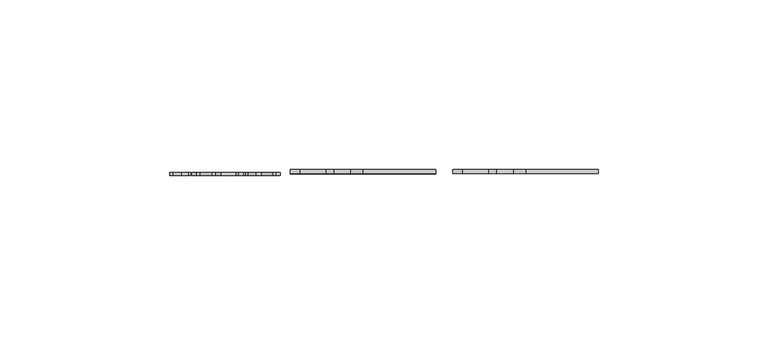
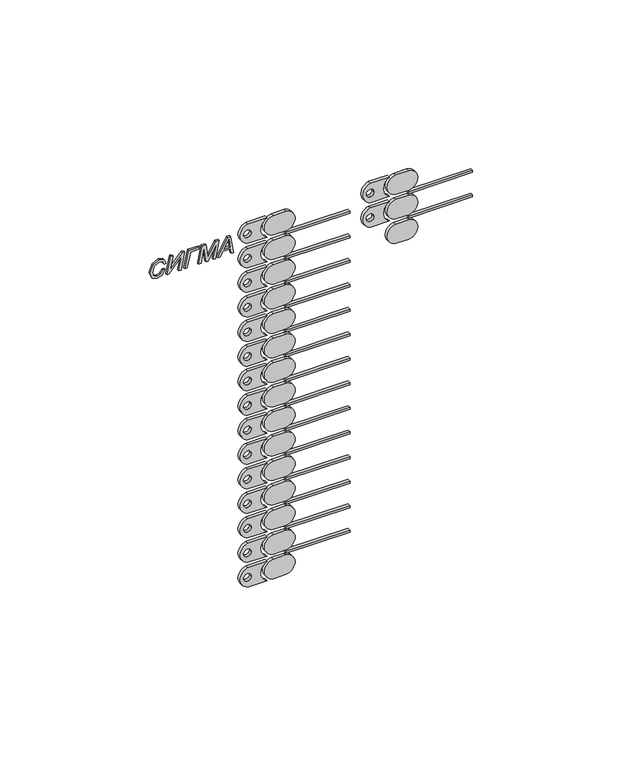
"""IFC4 building model written with IfcOpenShell, lengths in millimetres: alarm geometry, БИС-Р_тип модель : БИС-Р."""

from ifc_helpers import new_model, si_unit, point, frame, frame_2d, origin, place, context, project, spatial, polyline, circle_curve, trimmed, segment, composite_curve, outline, extrude, source, transform, mapped, element, save


def alarm_f305d9a8(model_context):
    return source(origin(), model_context, "Body", "SweptSolid", [
        extrude(outline(composite_curve([segment(trimmed(circle_curve(frame_2d((-33.3003936, -5.544314)), 4.0380565), [point((-37.3025772, -5.0072606))], [point((-29.2982099, -5.0072606))], False, "CARTESIAN"), True, "CONTINUOUS"), segment(polyline([(-29.2982099, -5.0072606), (-29.2982099, -10.0081551)]), True, "CONTINUOUS"), segment(trimmed(circle_curve(frame_2d((-33.3003936, -9.4568514)), 4.0399765), [point((-29.2982099, -10.0081551))], [point((-37.3025772, -10.0081551))], False, "CARTESIAN"), True, "CONTINUOUS"), segment(polyline([(-37.3025772, -10.0081551), (-37.3025772, -5.0072606)]), True, "CONTINUOUS")], self_intersect=False)), frame((0.0, -14.3, 0.0), z_axis=(0.0, 1.0, 0.0), x_axis=(0.0, 0.0, 1.0)), (0.0, 0.0, 1.0), 1.3),
        extrude(outline(composite_curve([segment(polyline([(-27.1525772, -20.003529), (-27.1525772, -12.5046189)]), True, "CONTINUOUS"), segment(trimmed(circle_curve(frame_2d((-23.1503936, -10.5527441)), 4.4527845), [point((-27.1525772, -12.5046189))], [point((-19.1482099, -12.5046189))], True, "CARTESIAN"), True, "CONTINUOUS"), segment(polyline([(-19.1482099, -12.5046189), (-19.1482099, -20.003529)]), True, "CONTINUOUS"), segment(trimmed(circle_curve(frame_2d((-23.1503936, -18.8352999)), 4.1692006), [point((-19.1482099, -20.003529))], [point((-27.1525772, -20.003529))], False, "CARTESIAN"), True, "CONTINUOUS")], self_intersect=False), holes=[composite_curve([segment(trimmed(circle_curve(frame_2d((-23.1503936, -20.1108515)), 1.5), [point((-23.1503936, -21.6108515))], [point((-23.1503936, -18.6108515))], True, "CARTESIAN"), True, "CONTINUOUS"), segment(trimmed(circle_curve(frame_2d((-23.1503936, -20.1108515)), 1.5), [point((-23.1503936, -18.6108515))], [point((-23.1503936, -21.6108515))], True, "CARTESIAN"), True, "CONTINUOUS")], self_intersect=False)]), frame((0.0, -14.3, 0.0), z_axis=(0.0, 1.0, 0.0), x_axis=(0.0, 0.0, 1.0)), (0.0, 0.0, 1.0), 1.3),
        extrude(outline(polyline([(19.9927394, -14.3), (-5.0072606, -14.3), (-5.0072606, -13.0), (19.9927394, -13.0), (19.9927394, -14.3)])), frame((0.0, 0.0, -28.6160186), z_axis=(0.0, 0.0, 1.0), x_axis=(1.0, 0.0, 0.0)), (0.0, 0.0, 1.0), 0.8214556),
        extrude(outline(composite_curve([segment(trimmed(circle_curve(frame_2d((-23.1503936, -5.544314)), 4.0380565), [point((-27.1525772, -5.0072606))], [point((-19.1482099, -5.0072606))], False, "CARTESIAN"), True, "CONTINUOUS"), segment(polyline([(-19.1482099, -5.0072606), (-19.1482099, -10.0081551)]), True, "CONTINUOUS"), segment(trimmed(circle_curve(frame_2d((-23.1503936, -9.4568514)), 4.0399765), [point((-19.1482099, -10.0081551))], [point((-27.1525772, -10.0081551))], False, "CARTESIAN"), True, "CONTINUOUS"), segment(polyline([(-27.1525772, -10.0081551), (-27.1525772, -5.0072606)]), True, "CONTINUOUS")], self_intersect=False)), frame((0.0, -14.3, 0.0), z_axis=(0.0, 1.0, 0.0), x_axis=(0.0, 0.0, 1.0)), (0.0, 0.0, 1.0), 1.3),
        extrude(outline(composite_curve([segment(polyline([(-17.0025772, -20.003529), (-17.0025772, -12.5046189)]), True, "CONTINUOUS"), segment(trimmed(circle_curve(frame_2d((-13.0003936, -10.5527441)), 4.4527845), [point((-17.0025772, -12.5046189))], [point((-8.9982099, -12.5046189))], True, "CARTESIAN"), True, "CONTINUOUS"), segment(polyline([(-8.9982099, -12.5046189), (-8.9982099, -20.003529)]), True, "CONTINUOUS"), segment(trimmed(circle_curve(frame_2d((-13.0003936, -18.8352999)), 4.1692006), [point((-8.9982099, -20.003529))], [point((-17.0025772, -20.003529))], False, "CARTESIAN"), True, "CONTINUOUS")], self_intersect=False), holes=[composite_curve([segment(trimmed(circle_curve(frame_2d((-13.0003936, -20.1108515)), 1.5), [point((-13.0003936, -21.6108515))], [point((-13.0003936, -18.6108515))], True, "CARTESIAN"), True, "CONTINUOUS"), segment(trimmed(circle_curve(frame_2d((-13.0003936, -20.1108515)), 1.5), [point((-13.0003936, -18.6108515))], [point((-13.0003936, -21.6108515))], True, "CARTESIAN"), True, "CONTINUOUS")], self_intersect=False)]), frame((0.0, -14.3, 0.0), z_axis=(0.0, 1.0, 0.0), x_axis=(0.0, 0.0, 1.0)), (0.0, 0.0, 1.0), 1.3),
        extrude(outline(polyline([(19.9927394, -14.3), (-5.0072606, -14.3), (-5.0072606, -13.0), (19.9927394, -13.0), (19.9927394, -14.3)])), frame((0.0, 0.0, -18.4660186), z_axis=(0.0, 0.0, 1.0), x_axis=(1.0, 0.0, 0.0)), (0.0, 0.0, 1.0), 0.8214556),
        extrude(outline(composite_curve([segment(trimmed(circle_curve(frame_2d((-13.0003936, -5.544314)), 4.0380565), [point((-17.0025772, -5.0072606))], [point((-8.9982099, -5.0072606))], False, "CARTESIAN"), True, "CONTINUOUS"), segment(polyline([(-8.9982099, -5.0072606), (-8.9982099, -10.0081551)]), True, "CONTINUOUS"), segment(trimmed(circle_curve(frame_2d((-13.0003936, -9.4568514)), 4.0399765), [point((-8.9982099, -10.0081551))], [point((-17.0025772, -10.0081551))], False, "CARTESIAN"), True, "CONTINUOUS"), segment(polyline([(-17.0025772, -10.0081551), (-17.0025772, -5.0072606)]), True, "CONTINUOUS")], self_intersect=False)), frame((0.0, -14.3, 0.0), z_axis=(0.0, 1.0, 0.0), x_axis=(0.0, 0.0, 1.0)), (0.0, 0.0, 1.0), 1.3),
        extrude(outline(composite_curve([segment(polyline([(-159.1025772, -68.0007689), (-159.1025772, -60.5018588)]), True, "CONTINUOUS"), segment(trimmed(circle_curve(frame_2d((-155.1003936, -58.549984)), 4.4527845), [point((-159.1025772, -60.5018588))], [point((-151.0982099, -60.5018588))], True, "CARTESIAN"), True, "CONTINUOUS"), segment(polyline([(-151.0982099, -60.5018588), (-151.0982099, -68.0007689)]), True, "CONTINUOUS"), segment(trimmed(circle_curve(frame_2d((-155.1003936, -66.8325398)), 4.1692006), [point((-151.0982099, -68.0007689))], [point((-159.1025772, -68.0007689))], False, "CARTESIAN"), True, "CONTINUOUS")], self_intersect=False), holes=[composite_curve([segment(trimmed(circle_curve(frame_2d((-155.1003936, -68.1080914)), 1.5), [point((-155.1003936, -69.6080914))], [point((-155.1003936, -66.6080914))], True, "CARTESIAN"), True, "CONTINUOUS"), segment(trimmed(circle_curve(frame_2d((-155.1003936, -68.1080914)), 1.5), [point((-155.1003936, -66.6080914))], [point((-155.1003936, -69.6080914))], True, "CARTESIAN"), True, "CONTINUOUS")], self_intersect=False)]), frame((0.0, -14.3, 0.0), z_axis=(0.0, 1.0, 0.0), x_axis=(0.0, 0.0, 1.0)), (0.0, 0.0, 1.0), 1.3),
        extrude(outline(composite_curve([segment(trimmed(circle_curve(frame_2d((-155.1003936, -53.5415539)), 4.0380565), [point((-159.1025772, -53.0045005))], [point((-151.0982099, -53.0045005))], False, "CARTESIAN"), True, "CONTINUOUS"), segment(polyline([(-151.0982099, -53.0045005), (-151.0982099, -58.005395)]), True, "CONTINUOUS"), segment(trimmed(circle_curve(frame_2d((-155.1003936, -57.4540913)), 4.0399765), [point((-151.0982099, -58.005395))], [point((-159.1025772, -58.005395))], False, "CARTESIAN"), True, "CONTINUOUS"), segment(polyline([(-159.1025772, -58.005395), (-159.1025772, -53.0045005)]), True, "CONTINUOUS")], self_intersect=False)), frame((0.0, -14.3, 0.0), z_axis=(0.0, 1.0, 0.0), x_axis=(0.0, 0.0, 1.0)), (0.0, 0.0, 1.0), 1.3),
        extrude(outline(composite_curve([segment(polyline([(-148.9525772, -68.0007689), (-148.9525772, -60.5018588)]), True, "CONTINUOUS"), segment(trimmed(circle_curve(frame_2d((-144.9503936, -58.549984)), 4.4527845), [point((-148.9525772, -60.5018588))], [point((-140.9482099, -60.5018588))], True, "CARTESIAN"), True, "CONTINUOUS"), segment(polyline([(-140.9482099, -60.5018588), (-140.9482099, -68.0007689)]), True, "CONTINUOUS"), segment(trimmed(circle_curve(frame_2d((-144.9503936, -66.8325398)), 4.1692006), [point((-140.9482099, -68.0007689))], [point((-148.9525772, -68.0007689))], False, "CARTESIAN"), True, "CONTINUOUS")], self_intersect=False), holes=[composite_curve([segment(trimmed(circle_curve(frame_2d((-144.9503936, -68.1080914)), 1.5), [point((-144.9503936, -69.6080914))], [point((-144.9503936, -66.6080914))], True, "CARTESIAN"), True, "CONTINUOUS"), segment(trimmed(circle_curve(frame_2d((-144.9503936, -68.1080914)), 1.5), [point((-144.9503936, -66.6080914))], [point((-144.9503936, -69.6080914))], True, "CARTESIAN"), True, "CONTINUOUS")], self_intersect=False)]), frame((0.0, -14.3, 0.0), z_axis=(0.0, 1.0, 0.0), x_axis=(0.0, 0.0, 1.0)), (0.0, 0.0, 1.0), 1.3),
        extrude(outline(polyline([(-28.0045005, -14.3), (-53.0045005, -14.3), (-53.0045005, -13.0), (-28.0045005, -13.0), (-28.0045005, -14.3)])), frame((0.0, 0.0, -150.4160186), z_axis=(0.0, 0.0, 1.0), x_axis=(1.0, 0.0, 0.0)), (0.0, 0.0, 1.0), 0.8214556),
        extrude(outline(composite_curve([segment(trimmed(circle_curve(frame_2d((-144.9503936, -53.5415539)), 4.0380565), [point((-148.9525772, -53.0045005))], [point((-140.9482099, -53.0045005))], False, "CARTESIAN"), True, "CONTINUOUS"), segment(polyline([(-140.9482099, -53.0045005), (-140.9482099, -58.005395)]), True, "CONTINUOUS"), segment(trimmed(circle_curve(frame_2d((-144.9503936, -57.4540913)), 4.0399765), [point((-140.9482099, -58.005395))], [point((-148.9525772, -58.005395))], False, "CARTESIAN"), True, "CONTINUOUS"), segment(polyline([(-148.9525772, -58.005395), (-148.9525772, -53.0045005)]), True, "CONTINUOUS")], self_intersect=False)), frame((0.0, -14.3, 0.0), z_axis=(0.0, 1.0, 0.0), x_axis=(0.0, 0.0, 1.0)), (0.0, 0.0, 1.0), 1.3),
        extrude(outline(composite_curve([segment(polyline([(-138.8025772, -68.0007689), (-138.8025772, -60.5018588)]), True, "CONTINUOUS"), segment(trimmed(circle_curve(frame_2d((-134.8003936, -58.549984)), 4.4527845), [point((-138.8025772, -60.5018588))], [point((-130.7982099, -60.5018588))], True, "CARTESIAN"), True, "CONTINUOUS"), segment(polyline([(-130.7982099, -60.5018588), (-130.7982099, -68.0007689)]), True, "CONTINUOUS"), segment(trimmed(circle_curve(frame_2d((-134.8003936, -66.8325398)), 4.1692006), [point((-130.7982099, -68.0007689))], [point((-138.8025772, -68.0007689))], False, "CARTESIAN"), True, "CONTINUOUS")], self_intersect=False), holes=[composite_curve([segment(trimmed(circle_curve(frame_2d((-134.8003936, -68.1080914)), 1.5), [point((-134.8003936, -69.6080914))], [point((-134.8003936, -66.6080914))], True, "CARTESIAN"), True, "CONTINUOUS"), segment(trimmed(circle_curve(frame_2d((-134.8003936, -68.1080914)), 1.5), [point((-134.8003936, -66.6080914))], [point((-134.8003936, -69.6080914))], True, "CARTESIAN"), True, "CONTINUOUS")], self_intersect=False)]), frame((0.0, -14.3, 0.0), z_axis=(0.0, 1.0, 0.0), x_axis=(0.0, 0.0, 1.0)), (0.0, 0.0, 1.0), 1.3),
        extrude(outline(polyline([(-28.0045005, -14.3), (-53.0045005, -14.3), (-53.0045005, -13.0), (-28.0045005, -13.0), (-28.0045005, -14.3)])), frame((0.0, 0.0, -140.2660186), z_axis=(0.0, 0.0, 1.0), x_axis=(1.0, 0.0, 0.0)), (0.0, 0.0, 1.0), 0.8214556),
        extrude(outline(composite_curve([segment(trimmed(circle_curve(frame_2d((-134.8003936, -53.5415539)), 4.0380565), [point((-138.8025772, -53.0045005))], [point((-130.7982099, -53.0045005))], False, "CARTESIAN"), True, "CONTINUOUS"), segment(polyline([(-130.7982099, -53.0045005), (-130.7982099, -58.005395)]), True, "CONTINUOUS"), segment(trimmed(circle_curve(frame_2d((-134.8003936, -57.4540913)), 4.0399765), [point((-130.7982099, -58.005395))], [point((-138.8025772, -58.005395))], False, "CARTESIAN"), True, "CONTINUOUS"), segment(polyline([(-138.8025772, -58.005395), (-138.8025772, -53.0045005)]), True, "CONTINUOUS")], self_intersect=False)), frame((0.0, -14.3, 0.0), z_axis=(0.0, 1.0, 0.0), x_axis=(0.0, 0.0, 1.0)), (0.0, 0.0, 1.0), 1.3),
        extrude(outline(composite_curve([segment(polyline([(-128.6525772, -68.0007689), (-128.6525772, -60.5018588)]), True, "CONTINUOUS"), segment(trimmed(circle_curve(frame_2d((-124.6503936, -58.549984)), 4.4527845), [point((-128.6525772, -60.5018588))], [point((-120.6482099, -60.5018588))], True, "CARTESIAN"), True, "CONTINUOUS"), segment(polyline([(-120.6482099, -60.5018588), (-120.6482099, -68.0007689)]), True, "CONTINUOUS"), segment(trimmed(circle_curve(frame_2d((-124.6503936, -66.8325398)), 4.1692006), [point((-120.6482099, -68.0007689))], [point((-128.6525772, -68.0007689))], False, "CARTESIAN"), True, "CONTINUOUS")], self_intersect=False), holes=[composite_curve([segment(trimmed(circle_curve(frame_2d((-124.6503936, -68.1080914)), 1.5), [point((-124.6503936, -69.6080914))], [point((-124.6503936, -66.6080914))], True, "CARTESIAN"), True, "CONTINUOUS"), segment(trimmed(circle_curve(frame_2d((-124.6503936, -68.1080914)), 1.5), [point((-124.6503936, -66.6080914))], [point((-124.6503936, -69.6080914))], True, "CARTESIAN"), True, "CONTINUOUS")], self_intersect=False)]), frame((0.0, -14.3, 0.0), z_axis=(0.0, 1.0, 0.0), x_axis=(0.0, 0.0, 1.0)), (0.0, 0.0, 1.0), 1.3),
        extrude(outline(polyline([(-28.0045005, -14.3), (-53.0045005, -14.3), (-53.0045005, -13.0), (-28.0045005, -13.0), (-28.0045005, -14.3)])), frame((0.0, 0.0, -130.1160186), z_axis=(0.0, 0.0, 1.0), x_axis=(1.0, 0.0, 0.0)), (0.0, 0.0, 1.0), 0.8214556),
        extrude(outline(composite_curve([segment(trimmed(circle_curve(frame_2d((-124.6503936, -53.5415539)), 4.0380565), [point((-128.6525772, -53.0045005))], [point((-120.6482099, -53.0045005))], False, "CARTESIAN"), True, "CONTINUOUS"), segment(polyline([(-120.6482099, -53.0045005), (-120.6482099, -58.005395)]), True, "CONTINUOUS"), segment(trimmed(circle_curve(frame_2d((-124.6503936, -57.4540913)), 4.0399765), [point((-120.6482099, -58.005395))], [point((-128.6525772, -58.005395))], False, "CARTESIAN"), True, "CONTINUOUS"), segment(polyline([(-128.6525772, -58.005395), (-128.6525772, -53.0045005)]), True, "CONTINUOUS")], self_intersect=False)), frame((0.0, -14.3, 0.0), z_axis=(0.0, 1.0, 0.0), x_axis=(0.0, 0.0, 1.0)), (0.0, 0.0, 1.0), 1.3),
        extrude(outline(composite_curve([segment(polyline([(-118.5025772, -68.0007689), (-118.5025772, -60.5018588)]), True, "CONTINUOUS"), segment(trimmed(circle_curve(frame_2d((-114.5003936, -58.549984)), 4.4527845), [point((-118.5025772, -60.5018588))], [point((-110.4982099, -60.5018588))], True, "CARTESIAN"), True, "CONTINUOUS"), segment(polyline([(-110.4982099, -60.5018588), (-110.4982099, -68.0007689)]), True, "CONTINUOUS"), segment(trimmed(circle_curve(frame_2d((-114.5003936, -66.8325398)), 4.1692006), [point((-110.4982099, -68.0007689))], [point((-118.5025772, -68.0007689))], False, "CARTESIAN"), True, "CONTINUOUS")], self_intersect=False), holes=[composite_curve([segment(trimmed(circle_curve(frame_2d((-114.5003936, -68.1080914)), 1.5), [point((-114.5003936, -69.6080914))], [point((-114.5003936, -66.6080914))], True, "CARTESIAN"), True, "CONTINUOUS"), segment(trimmed(circle_curve(frame_2d((-114.5003936, -68.1080914)), 1.5), [point((-114.5003936, -66.6080914))], [point((-114.5003936, -69.6080914))], True, "CARTESIAN"), True, "CONTINUOUS")], self_intersect=False)]), frame((0.0, -14.3, 0.0), z_axis=(0.0, 1.0, 0.0), x_axis=(0.0, 0.0, 1.0)), (0.0, 0.0, 1.0), 1.3),
        extrude(outline(polyline([(-28.0045005, -14.3), (-53.0045005, -14.3), (-53.0045005, -13.0), (-28.0045005, -13.0), (-28.0045005, -14.3)])), frame((0.0, 0.0, -119.9660186), z_axis=(0.0, 0.0, 1.0), x_axis=(1.0, 0.0, 0.0)), (0.0, 0.0, 1.0), 0.8214556),
        extrude(outline(composite_curve([segment(trimmed(circle_curve(frame_2d((-114.5003936, -53.5415539)), 4.0380565), [point((-118.5025772, -53.0045005))], [point((-110.4982099, -53.0045005))], False, "CARTESIAN"), True, "CONTINUOUS"), segment(polyline([(-110.4982099, -53.0045005), (-110.4982099, -58.005395)]), True, "CONTINUOUS"), segment(trimmed(circle_curve(frame_2d((-114.5003936, -57.4540913)), 4.0399765), [point((-110.4982099, -58.005395))], [point((-118.5025772, -58.005395))], False, "CARTESIAN"), True, "CONTINUOUS"), segment(polyline([(-118.5025772, -58.005395), (-118.5025772, -53.0045005)]), True, "CONTINUOUS")], self_intersect=False)), frame((0.0, -14.3, 0.0), z_axis=(0.0, 1.0, 0.0), x_axis=(0.0, 0.0, 1.0)), (0.0, 0.0, 1.0), 1.3),
        extrude(outline(composite_curve([segment(polyline([(-108.3525772, -68.0007689), (-108.3525772, -60.5018588)]), True, "CONTINUOUS"), segment(trimmed(circle_curve(frame_2d((-104.3503936, -58.549984)), 4.4527845), [point((-108.3525772, -60.5018588))], [point((-100.3482099, -60.5018588))], True, "CARTESIAN"), True, "CONTINUOUS"), segment(polyline([(-100.3482099, -60.5018588), (-100.3482099, -68.0007689)]), True, "CONTINUOUS"), segment(trimmed(circle_curve(frame_2d((-104.3503936, -66.8325398)), 4.1692006), [point((-100.3482099, -68.0007689))], [point((-108.3525772, -68.0007689))], False, "CARTESIAN"), True, "CONTINUOUS")], self_intersect=False), holes=[composite_curve([segment(trimmed(circle_curve(frame_2d((-104.3503936, -68.1080914)), 1.5), [point((-104.3503936, -69.6080914))], [point((-104.3503936, -66.6080914))], True, "CARTESIAN"), True, "CONTINUOUS"), segment(trimmed(circle_curve(frame_2d((-104.3503936, -68.1080914)), 1.5), [point((-104.3503936, -66.6080914))], [point((-104.3503936, -69.6080914))], True, "CARTESIAN"), True, "CONTINUOUS")], self_intersect=False)]), frame((0.0, -14.3, 0.0), z_axis=(0.0, 1.0, 0.0), x_axis=(0.0, 0.0, 1.0)), (0.0, 0.0, 1.0), 1.3),
        extrude(outline(polyline([(-28.0045005, -14.3), (-53.0045005, -14.3), (-53.0045005, -13.0), (-28.0045005, -13.0), (-28.0045005, -14.3)])), frame((0.0, 0.0, -109.8160186), z_axis=(0.0, 0.0, 1.0), x_axis=(1.0, 0.0, 0.0)), (0.0, 0.0, 1.0), 0.8214556),
        extrude(outline(composite_curve([segment(trimmed(circle_curve(frame_2d((-104.3503936, -53.5415539)), 4.0380565), [point((-108.3525772, -53.0045005))], [point((-100.3482099, -53.0045005))], False, "CARTESIAN"), True, "CONTINUOUS"), segment(polyline([(-100.3482099, -53.0045005), (-100.3482099, -58.005395)]), True, "CONTINUOUS"), segment(trimmed(circle_curve(frame_2d((-104.3503936, -57.4540913)), 4.0399765), [point((-100.3482099, -58.005395))], [point((-108.3525772, -58.005395))], False, "CARTESIAN"), True, "CONTINUOUS"), segment(polyline([(-108.3525772, -58.005395), (-108.3525772, -53.0045005)]), True, "CONTINUOUS")], self_intersect=False)), frame((0.0, -14.3, 0.0), z_axis=(0.0, 1.0, 0.0), x_axis=(0.0, 0.0, 1.0)), (0.0, 0.0, 1.0), 1.3),
        extrude(outline(composite_curve([segment(polyline([(-98.2025772, -68.0007689), (-98.2025772, -60.5018588)]), True, "CONTINUOUS"), segment(trimmed(circle_curve(frame_2d((-94.2003936, -58.549984)), 4.4527845), [point((-98.2025772, -60.5018588))], [point((-90.1982099, -60.5018588))], True, "CARTESIAN"), True, "CONTINUOUS"), segment(polyline([(-90.1982099, -60.5018588), (-90.1982099, -68.0007689)]), True, "CONTINUOUS"), segment(trimmed(circle_curve(frame_2d((-94.2003936, -66.8325398)), 4.1692006), [point((-90.1982099, -68.0007689))], [point((-98.2025772, -68.0007689))], False, "CARTESIAN"), True, "CONTINUOUS")], self_intersect=False), holes=[composite_curve([segment(trimmed(circle_curve(frame_2d((-94.2003936, -68.1080914)), 1.5), [point((-94.2003936, -69.6080914))], [point((-94.2003936, -66.6080914))], True, "CARTESIAN"), True, "CONTINUOUS"), segment(trimmed(circle_curve(frame_2d((-94.2003936, -68.1080914)), 1.5), [point((-94.2003936, -66.6080914))], [point((-94.2003936, -69.6080914))], True, "CARTESIAN"), True, "CONTINUOUS")], self_intersect=False)]), frame((0.0, -14.3, 0.0), z_axis=(0.0, 1.0, 0.0), x_axis=(0.0, 0.0, 1.0)), (0.0, 0.0, 1.0), 1.3),
        extrude(outline(polyline([(-28.0045005, -14.3), (-53.0045005, -14.3), (-53.0045005, -13.0), (-28.0045005, -13.0), (-28.0045005, -14.3)])), frame((0.0, 0.0, -99.6660186), z_axis=(0.0, 0.0, 1.0), x_axis=(1.0, 0.0, 0.0)), (0.0, 0.0, 1.0), 0.8214556),
        extrude(outline(composite_curve([segment(trimmed(circle_curve(frame_2d((-94.2003936, -53.5415539)), 4.0380565), [point((-98.2025772, -53.0045005))], [point((-90.1982099, -53.0045005))], False, "CARTESIAN"), True, "CONTINUOUS"), segment(polyline([(-90.1982099, -53.0045005), (-90.1982099, -58.005395)]), True, "CONTINUOUS"), segment(trimmed(circle_curve(frame_2d((-94.2003936, -57.4540913)), 4.0399765), [point((-90.1982099, -58.005395))], [point((-98.2025772, -58.005395))], False, "CARTESIAN"), True, "CONTINUOUS"), segment(polyline([(-98.2025772, -58.005395), (-98.2025772, -53.0045005)]), True, "CONTINUOUS")], self_intersect=False)), frame((0.0, -14.3, 0.0), z_axis=(0.0, 1.0, 0.0), x_axis=(0.0, 0.0, 1.0)), (0.0, 0.0, 1.0), 1.3),
        extrude(outline(composite_curve([segment(polyline([(-88.0525772, -68.0007689), (-88.0525772, -60.5018588)]), True, "CONTINUOUS"), segment(trimmed(circle_curve(frame_2d((-84.0503936, -58.549984)), 4.4527845), [point((-88.0525772, -60.5018588))], [point((-80.0482099, -60.5018588))], True, "CARTESIAN"), True, "CONTINUOUS"), segment(polyline([(-80.0482099, -60.5018588), (-80.0482099, -68.0007689)]), True, "CONTINUOUS"), segment(trimmed(circle_curve(frame_2d((-84.0503936, -66.8325398)), 4.1692006), [point((-80.0482099, -68.0007689))], [point((-88.0525772, -68.0007689))], False, "CARTESIAN"), True, "CONTINUOUS")], self_intersect=False), holes=[composite_curve([segment(trimmed(circle_curve(frame_2d((-84.0503936, -68.1080914)), 1.5), [point((-84.0503936, -69.6080914))], [point((-84.0503936, -66.6080914))], True, "CARTESIAN"), True, "CONTINUOUS"), segment(trimmed(circle_curve(frame_2d((-84.0503936, -68.1080914)), 1.5), [point((-84.0503936, -66.6080914))], [point((-84.0503936, -69.6080914))], True, "CARTESIAN"), True, "CONTINUOUS")], self_intersect=False)]), frame((0.0, -14.3, 0.0), z_axis=(0.0, 1.0, 0.0), x_axis=(0.0, 0.0, 1.0)), (0.0, 0.0, 1.0), 1.3),
        extrude(outline(polyline([(-28.0045005, -14.3), (-53.0045005, -14.3), (-53.0045005, -13.0), (-28.0045005, -13.0), (-28.0045005, -14.3)])), frame((0.0, 0.0, -89.5160186), z_axis=(0.0, 0.0, 1.0), x_axis=(1.0, 0.0, 0.0)), (0.0, 0.0, 1.0), 0.8214556),
        extrude(outline(composite_curve([segment(trimmed(circle_curve(frame_2d((-84.0503936, -53.5415539)), 4.0380565), [point((-88.0525772, -53.0045005))], [point((-80.0482099, -53.0045005))], False, "CARTESIAN"), True, "CONTINUOUS"), segment(polyline([(-80.0482099, -53.0045005), (-80.0482099, -58.005395)]), True, "CONTINUOUS"), segment(trimmed(circle_curve(frame_2d((-84.0503936, -57.4540913)), 4.0399765), [point((-80.0482099, -58.005395))], [point((-88.0525772, -58.005395))], False, "CARTESIAN"), True, "CONTINUOUS"), segment(polyline([(-88.0525772, -58.005395), (-88.0525772, -53.0045005)]), True, "CONTINUOUS")], self_intersect=False)), frame((0.0, -14.3, 0.0), z_axis=(0.0, 1.0, 0.0), x_axis=(0.0, 0.0, 1.0)), (0.0, 0.0, 1.0), 1.3),
        extrude(outline(composite_curve([segment(polyline([(-77.9025772, -68.0007689), (-77.9025772, -60.5018588)]), True, "CONTINUOUS"), segment(trimmed(circle_curve(frame_2d((-73.9003936, -58.549984)), 4.4527845), [point((-77.9025772, -60.5018588))], [point((-69.8982099, -60.5018588))], True, "CARTESIAN"), True, "CONTINUOUS"), segment(polyline([(-69.8982099, -60.5018588), (-69.8982099, -68.0007689)]), True, "CONTINUOUS"), segment(trimmed(circle_curve(frame_2d((-73.9003936, -66.8325398)), 4.1692006), [point((-69.8982099, -68.0007689))], [point((-77.9025772, -68.0007689))], False, "CARTESIAN"), True, "CONTINUOUS")], self_intersect=False), holes=[composite_curve([segment(trimmed(circle_curve(frame_2d((-73.9003936, -68.1080914)), 1.5), [point((-73.9003936, -69.6080914))], [point((-73.9003936, -66.6080914))], True, "CARTESIAN"), True, "CONTINUOUS"), segment(trimmed(circle_curve(frame_2d((-73.9003936, -68.1080914)), 1.5), [point((-73.9003936, -66.6080914))], [point((-73.9003936, -69.6080914))], True, "CARTESIAN"), True, "CONTINUOUS")], self_intersect=False)]), frame((0.0, -14.3, 0.0), z_axis=(0.0, 1.0, 0.0), x_axis=(0.0, 0.0, 1.0)), (0.0, 0.0, 1.0), 1.3),
        extrude(outline(polyline([(-28.0045005, -14.3), (-53.0045005, -14.3), (-53.0045005, -13.0), (-28.0045005, -13.0), (-28.0045005, -14.3)])), frame((0.0, 0.0, -79.3660186), z_axis=(0.0, 0.0, 1.0), x_axis=(1.0, 0.0, 0.0)), (0.0, 0.0, 1.0), 0.8214556),
        extrude(outline(composite_curve([segment(trimmed(circle_curve(frame_2d((-73.9003936, -53.5415539)), 4.0380565), [point((-77.9025772, -53.0045005))], [point((-69.8982099, -53.0045005))], False, "CARTESIAN"), True, "CONTINUOUS"), segment(polyline([(-69.8982099, -53.0045005), (-69.8982099, -58.005395)]), True, "CONTINUOUS"), segment(trimmed(circle_curve(frame_2d((-73.9003936, -57.4540913)), 4.0399765), [point((-69.8982099, -58.005395))], [point((-77.9025772, -58.005395))], False, "CARTESIAN"), True, "CONTINUOUS"), segment(polyline([(-77.9025772, -58.005395), (-77.9025772, -53.0045005)]), True, "CONTINUOUS")], self_intersect=False)), frame((0.0, -14.3, 0.0), z_axis=(0.0, 1.0, 0.0), x_axis=(0.0, 0.0, 1.0)), (0.0, 0.0, 1.0), 1.3),
        extrude(outline(composite_curve([segment(polyline([(-67.7525772, -68.0007689), (-67.7525772, -60.5018588)]), True, "CONTINUOUS"), segment(trimmed(circle_curve(frame_2d((-63.7503936, -58.549984)), 4.4527845), [point((-67.7525772, -60.5018588))], [point((-59.7482099, -60.5018588))], True, "CARTESIAN"), True, "CONTINUOUS"), segment(polyline([(-59.7482099, -60.5018588), (-59.7482099, -68.0007689)]), True, "CONTINUOUS"), segment(trimmed(circle_curve(frame_2d((-63.7503936, -66.8325398)), 4.1692006), [point((-59.7482099, -68.0007689))], [point((-67.7525772, -68.0007689))], False, "CARTESIAN"), True, "CONTINUOUS")], self_intersect=False), holes=[composite_curve([segment(trimmed(circle_curve(frame_2d((-63.7503936, -68.1080914)), 1.5), [point((-63.7503936, -69.6080914))], [point((-63.7503936, -66.6080914))], True, "CARTESIAN"), True, "CONTINUOUS"), segment(trimmed(circle_curve(frame_2d((-63.7503936, -68.1080914)), 1.5), [point((-63.7503936, -66.6080914))], [point((-63.7503936, -69.6080914))], True, "CARTESIAN"), True, "CONTINUOUS")], self_intersect=False)]), frame((0.0, -14.3, 0.0), z_axis=(0.0, 1.0, 0.0), x_axis=(0.0, 0.0, 1.0)), (0.0, 0.0, 1.0), 1.3),
        extrude(outline(polyline([(-28.0045005, -14.3), (-53.0045005, -14.3), (-53.0045005, -13.0), (-28.0045005, -13.0), (-28.0045005, -14.3)])), frame((0.0, 0.0, -69.2160186), z_axis=(0.0, 0.0, 1.0), x_axis=(1.0, 0.0, 0.0)), (0.0, 0.0, 1.0), 0.8214556),
        extrude(outline(composite_curve([segment(trimmed(circle_curve(frame_2d((-63.7503936, -53.5415539)), 4.0380565), [point((-67.7525772, -53.0045005))], [point((-59.7482099, -53.0045005))], False, "CARTESIAN"), True, "CONTINUOUS"), segment(polyline([(-59.7482099, -53.0045005), (-59.7482099, -58.005395)]), True, "CONTINUOUS"), segment(trimmed(circle_curve(frame_2d((-63.7503936, -57.4540913)), 4.0399765), [point((-59.7482099, -58.005395))], [point((-67.7525772, -58.005395))], False, "CARTESIAN"), True, "CONTINUOUS"), segment(polyline([(-67.7525772, -58.005395), (-67.7525772, -53.0045005)]), True, "CONTINUOUS")], self_intersect=False)), frame((0.0, -14.3, 0.0), z_axis=(0.0, 1.0, 0.0), x_axis=(0.0, 0.0, 1.0)), (0.0, 0.0, 1.0), 1.3),
        extrude(outline(composite_curve([segment(polyline([(-57.6025772, -68.0007689), (-57.6025772, -60.5018588)]), True, "CONTINUOUS"), segment(trimmed(circle_curve(frame_2d((-53.6003936, -58.549984)), 4.4527845), [point((-57.6025772, -60.5018588))], [point((-49.5982099, -60.5018588))], True, "CARTESIAN"), True, "CONTINUOUS"), segment(polyline([(-49.5982099, -60.5018588), (-49.5982099, -68.0007689)]), True, "CONTINUOUS"), segment(trimmed(circle_curve(frame_2d((-53.6003936, -66.8325398)), 4.1692006), [point((-49.5982099, -68.0007689))], [point((-57.6025772, -68.0007689))], False, "CARTESIAN"), True, "CONTINUOUS")], self_intersect=False), holes=[composite_curve([segment(trimmed(circle_curve(frame_2d((-53.6003936, -68.1080914)), 1.5), [point((-53.6003936, -69.6080914))], [point((-53.6003936, -66.6080914))], True, "CARTESIAN"), True, "CONTINUOUS"), segment(trimmed(circle_curve(frame_2d((-53.6003936, -68.1080914)), 1.5), [point((-53.6003936, -66.6080914))], [point((-53.6003936, -69.6080914))], True, "CARTESIAN"), True, "CONTINUOUS")], self_intersect=False)]), frame((0.0, -14.3, 0.0), z_axis=(0.0, 1.0, 0.0), x_axis=(0.0, 0.0, 1.0)), (0.0, 0.0, 1.0), 1.3),
        extrude(outline(polyline([(-28.0045005, -14.3), (-53.0045005, -14.3), (-53.0045005, -13.0), (-28.0045005, -13.0), (-28.0045005, -14.3)])), frame((0.0, 0.0, -59.0660186), z_axis=(0.0, 0.0, 1.0), x_axis=(1.0, 0.0, 0.0)), (0.0, 0.0, 1.0), 0.8214556),
        extrude(outline(composite_curve([segment(trimmed(circle_curve(frame_2d((-53.6003936, -53.5415539)), 4.0380565), [point((-57.6025772, -53.0045005))], [point((-49.5982099, -53.0045005))], False, "CARTESIAN"), True, "CONTINUOUS"), segment(polyline([(-49.5982099, -53.0045005), (-49.5982099, -58.005395)]), True, "CONTINUOUS"), segment(trimmed(circle_curve(frame_2d((-53.6003936, -57.4540913)), 4.0399765), [point((-49.5982099, -58.005395))], [point((-57.6025772, -58.005395))], False, "CARTESIAN"), True, "CONTINUOUS"), segment(polyline([(-57.6025772, -58.005395), (-57.6025772, -53.0045005)]), True, "CONTINUOUS")], self_intersect=False)), frame((0.0, -14.3, 0.0), z_axis=(0.0, 1.0, 0.0), x_axis=(0.0, 0.0, 1.0)), (0.0, 0.0, 1.0), 1.3),
        extrude(outline(composite_curve([segment(polyline([(-47.4525772, -68.0007689), (-47.4525772, -60.5018588)]), True, "CONTINUOUS"), segment(trimmed(circle_curve(frame_2d((-43.4503936, -58.549984)), 4.4527845), [point((-47.4525772, -60.5018588))], [point((-39.4482099, -60.5018588))], True, "CARTESIAN"), True, "CONTINUOUS"), segment(polyline([(-39.4482099, -60.5018588), (-39.4482099, -68.0007689)]), True, "CONTINUOUS"), segment(trimmed(circle_curve(frame_2d((-43.4503936, -66.8325398)), 4.1692006), [point((-39.4482099, -68.0007689))], [point((-47.4525772, -68.0007689))], False, "CARTESIAN"), True, "CONTINUOUS")], self_intersect=False), holes=[composite_curve([segment(trimmed(circle_curve(frame_2d((-43.4503936, -68.1080914)), 1.5), [point((-43.4503936, -69.6080914))], [point((-43.4503936, -66.6080914))], True, "CARTESIAN"), True, "CONTINUOUS"), segment(trimmed(circle_curve(frame_2d((-43.4503936, -68.1080914)), 1.5), [point((-43.4503936, -66.6080914))], [point((-43.4503936, -69.6080914))], True, "CARTESIAN"), True, "CONTINUOUS")], self_intersect=False)]), frame((0.0, -14.3, 0.0), z_axis=(0.0, 1.0, 0.0), x_axis=(0.0, 0.0, 1.0)), (0.0, 0.0, 1.0), 1.3),
        extrude(outline(polyline([(-28.0045005, -14.3), (-53.0045005, -14.3), (-53.0045005, -13.0), (-28.0045005, -13.0), (-28.0045005, -14.3)])), frame((0.0, 0.0, -48.9160186), z_axis=(0.0, 0.0, 1.0), x_axis=(1.0, 0.0, 0.0)), (0.0, 0.0, 1.0), 0.8214556),
        extrude(outline(composite_curve([segment(trimmed(circle_curve(frame_2d((-43.4503936, -53.5415539)), 4.0380565), [point((-47.4525772, -53.0045005))], [point((-39.4482099, -53.0045005))], False, "CARTESIAN"), True, "CONTINUOUS"), segment(polyline([(-39.4482099, -53.0045005), (-39.4482099, -58.005395)]), True, "CONTINUOUS"), segment(trimmed(circle_curve(frame_2d((-43.4503936, -57.4540913)), 4.0399765), [point((-39.4482099, -58.005395))], [point((-47.4525772, -58.005395))], False, "CARTESIAN"), True, "CONTINUOUS"), segment(polyline([(-47.4525772, -58.005395), (-47.4525772, -53.0045005)]), True, "CONTINUOUS")], self_intersect=False)), frame((0.0, -14.3, 0.0), z_axis=(0.0, 1.0, 0.0), x_axis=(0.0, 0.0, 1.0)), (0.0, 0.0, 1.0), 1.3),
        extrude(outline(composite_curve([segment(polyline([(-37.3025772, -68.0007689), (-37.3025772, -60.5018588)]), True, "CONTINUOUS"), segment(trimmed(circle_curve(frame_2d((-33.3003936, -58.549984)), 4.4527845), [point((-37.3025772, -60.5018588))], [point((-29.2982099, -60.5018588))], True, "CARTESIAN"), True, "CONTINUOUS"), segment(polyline([(-29.2982099, -60.5018588), (-29.2982099, -68.0007689)]), True, "CONTINUOUS"), segment(trimmed(circle_curve(frame_2d((-33.3003936, -66.8325398)), 4.1692006), [point((-29.2982099, -68.0007689))], [point((-37.3025772, -68.0007689))], False, "CARTESIAN"), True, "CONTINUOUS")], self_intersect=False), holes=[composite_curve([segment(trimmed(circle_curve(frame_2d((-33.3003936, -68.1080914)), 1.5), [point((-33.3003936, -69.6080914))], [point((-33.3003936, -66.6080914))], True, "CARTESIAN"), True, "CONTINUOUS"), segment(trimmed(circle_curve(frame_2d((-33.3003936, -68.1080914)), 1.5), [point((-33.3003936, -66.6080914))], [point((-33.3003936, -69.6080914))], True, "CARTESIAN"), True, "CONTINUOUS")], self_intersect=False)]), frame((0.0, -14.3, 0.0), z_axis=(0.0, 1.0, 0.0), x_axis=(0.0, 0.0, 1.0)), (0.0, 0.0, 1.0), 1.3),
        extrude(outline(polyline([(-28.0045005, -14.3), (-53.0045005, -14.3), (-53.0045005, -13.0), (-28.0045005, -13.0), (-28.0045005, -14.3)])), frame((0.0, 0.0, -38.7660186), z_axis=(0.0, 0.0, 1.0), x_axis=(1.0, 0.0, 0.0)), (0.0, 0.0, 1.0), 0.8214556),
        extrude(outline(composite_curve([segment(trimmed(circle_curve(frame_2d((-33.3003936, -53.5415539)), 4.0380565), [point((-37.3025772, -53.0045005))], [point((-29.2982099, -53.0045005))], False, "CARTESIAN"), True, "CONTINUOUS"), segment(polyline([(-29.2982099, -53.0045005), (-29.2982099, -58.005395)]), True, "CONTINUOUS"), segment(trimmed(circle_curve(frame_2d((-33.3003936, -57.4540913)), 4.0399765), [point((-29.2982099, -58.005395))], [point((-37.3025772, -58.005395))], False, "CARTESIAN"), True, "CONTINUOUS"), segment(polyline([(-37.3025772, -58.005395), (-37.3025772, -53.0045005)]), True, "CONTINUOUS")], self_intersect=False)), frame((0.0, -14.3, 0.0), z_axis=(0.0, 1.0, 0.0), x_axis=(0.0, 0.0, 1.0)), (0.0, 0.0, 1.0), 1.3),
        extrude(outline(composite_curve([segment(polyline([(-27.1525772, -68.0007689), (-27.1525772, -60.5018588)]), True, "CONTINUOUS"), segment(trimmed(circle_curve(frame_2d((-23.1503936, -58.549984)), 4.4527845), [point((-27.1525772, -60.5018588))], [point((-19.1482099, -60.5018588))], True, "CARTESIAN"), True, "CONTINUOUS"), segment(polyline([(-19.1482099, -60.5018588), (-19.1482099, -68.0007689)]), True, "CONTINUOUS"), segment(trimmed(circle_curve(frame_2d((-23.1503936, -66.8325398)), 4.1692006), [point((-19.1482099, -68.0007689))], [point((-27.1525772, -68.0007689))], False, "CARTESIAN"), True, "CONTINUOUS")], self_intersect=False), holes=[composite_curve([segment(trimmed(circle_curve(frame_2d((-23.1503936, -68.1080914)), 1.5), [point((-23.1503936, -69.6080914))], [point((-23.1503936, -66.6080914))], True, "CARTESIAN"), True, "CONTINUOUS"), segment(trimmed(circle_curve(frame_2d((-23.1503936, -68.1080914)), 1.5), [point((-23.1503936, -66.6080914))], [point((-23.1503936, -69.6080914))], True, "CARTESIAN"), True, "CONTINUOUS")], self_intersect=False)]), frame((0.0, -14.3, 0.0), z_axis=(0.0, 1.0, 0.0), x_axis=(0.0, 0.0, 1.0)), (0.0, 0.0, 1.0), 1.3),
        extrude(outline(polyline([(-28.0045005, -14.3), (-53.0045005, -14.3), (-53.0045005, -13.0), (-28.0045005, -13.0), (-28.0045005, -14.3)])), frame((0.0, 0.0, -28.6160186), z_axis=(0.0, 0.0, 1.0), x_axis=(1.0, 0.0, 0.0)), (0.0, 0.0, 1.0), 0.8214556),
        extrude(outline(composite_curve([segment(trimmed(circle_curve(frame_2d((-23.1503936, -53.5415539)), 4.0380565), [point((-27.1525772, -53.0045005))], [point((-19.1482099, -53.0045005))], False, "CARTESIAN"), True, "CONTINUOUS"), segment(polyline([(-19.1482099, -53.0045005), (-19.1482099, -58.005395)]), True, "CONTINUOUS"), segment(trimmed(circle_curve(frame_2d((-23.1503936, -57.4540913)), 4.0399765), [point((-19.1482099, -58.005395))], [point((-27.1525772, -58.005395))], False, "CARTESIAN"), True, "CONTINUOUS"), segment(polyline([(-27.1525772, -58.005395), (-27.1525772, -53.0045005)]), True, "CONTINUOUS")], self_intersect=False)), frame((0.0, -14.3, 0.0), z_axis=(0.0, 1.0, 0.0), x_axis=(0.0, 0.0, 1.0)), (0.0, 0.0, 1.0), 1.3),
        extrude(outline(composite_curve([segment(polyline([(-17.0025772, -68.0007689), (-17.0025772, -60.5018588)]), True, "CONTINUOUS"), segment(trimmed(circle_curve(frame_2d((-13.0003936, -58.549984)), 4.4527845), [point((-17.0025772, -60.5018588))], [point((-8.9982099, -60.5018588))], True, "CARTESIAN"), True, "CONTINUOUS"), segment(polyline([(-8.9982099, -60.5018588), (-8.9982099, -68.0007689)]), True, "CONTINUOUS"), segment(trimmed(circle_curve(frame_2d((-13.0003936, -66.8325398)), 4.1692006), [point((-8.9982099, -68.0007689))], [point((-17.0025772, -68.0007689))], False, "CARTESIAN"), True, "CONTINUOUS")], self_intersect=False), holes=[composite_curve([segment(trimmed(circle_curve(frame_2d((-13.0003936, -68.1080914)), 1.5), [point((-13.0003936, -69.6080914))], [point((-13.0003936, -66.6080914))], True, "CARTESIAN"), True, "CONTINUOUS"), segment(trimmed(circle_curve(frame_2d((-13.0003936, -68.1080914)), 1.5), [point((-13.0003936, -66.6080914))], [point((-13.0003936, -69.6080914))], True, "CARTESIAN"), True, "CONTINUOUS")], self_intersect=False)]), frame((0.0, -14.3, 0.0), z_axis=(0.0, 1.0, 0.0), x_axis=(0.0, 0.0, 1.0)), (0.0, 0.0, 1.0), 1.3),
        extrude(outline(polyline([(-28.0045005, -14.3), (-53.0045005, -14.3), (-53.0045005, -13.0), (-28.0045005, -13.0), (-28.0045005, -14.3)])), frame((0.0, 0.0, -18.4660186), z_axis=(0.0, 0.0, 1.0), x_axis=(1.0, 0.0, 0.0)), (0.0, 0.0, 1.0), 0.8214556),
        extrude(outline(composite_curve([segment(trimmed(circle_curve(frame_2d((-13.0003936, -53.5415539)), 4.0380565), [point((-17.0025772, -53.0045005))], [point((-8.9982099, -53.0045005))], False, "CARTESIAN"), True, "CONTINUOUS"), segment(polyline([(-8.9982099, -53.0045005), (-8.9982099, -58.005395)]), True, "CONTINUOUS"), segment(trimmed(circle_curve(frame_2d((-13.0003936, -57.4540913)), 4.0399765), [point((-8.9982099, -58.005395))], [point((-17.0025772, -58.005395))], False, "CARTESIAN"), True, "CONTINUOUS"), segment(polyline([(-17.0025772, -58.005395), (-17.0025772, -53.0045005)]), True, "CONTINUOUS")], self_intersect=False)), frame((0.0, -14.3, 0.0), z_axis=(0.0, 1.0, 0.0), x_axis=(0.0, 0.0, 1.0)), (0.0, 0.0, 1.0), 1.3),
        extrude(outline(polyline([(-15.9386561, -101.4570217), (-17.3189494, -102.3317225), (-17.8065156, -103.6768217), (-17.2356854, -105.0897338), (-15.5815653, -105.6322371), (-13.238157, -104.930073), (-12.093063, -102.8270143), (-12.4750471, -101.6973713), (-13.6313003, -101.1273995), (-13.5214262, -100.2484068), (-11.919668, -101.0492859), (-11.3239444, -102.8544828), (-12.4295524, -105.373003), (-15.5626807, -106.5112299), (-17.796215, -105.7644294), (-18.5756343, -103.7420594), (-17.9361327, -101.8570321), (-16.0485302, -100.578029), (-15.9386561, -101.4570217)])), frame((0.0, -14.8, 0.0), z_axis=(0.0, 1.0, 0.0), x_axis=(0.0, 0.0, 1.0)), (0.0, 0.0, 1.0), 0.8),
        extrude(outline(polyline([(-11.4338185, -98.4990053), (-18.4657602, -99.9187845), (-18.4657602, -99.0432253), (-12.8948005, -94.1795801), (-18.4657602, -95.3040727), (-18.4657602, -94.4113458), (-11.4338185, -92.9915665), (-11.4338185, -93.8619753), (-17.0116453, -98.7324877), (-11.4338185, -97.6062783), (-11.4338185, -98.4990053)])), frame((0.0, -14.8, 0.0), z_axis=(0.0, 1.0, 0.0), x_axis=(0.0, 0.0, 1.0)), (0.0, 0.0, 1.0), 0.8),
        extrude(outline(polyline([(-11.4338185, -91.4653468), (-18.4657602, -92.8868428), (-18.4657602, -91.992399), (-12.3128112, -90.7477316), (-12.3128112, -87.1201699), (-11.4338185, -86.953642), (-11.4338185, -91.4653468)])), frame((0.0, -14.8, 0.0), z_axis=(0.0, 1.0, 0.0), x_axis=(0.0, 0.0, 1.0)), (0.0, 0.0, 1.0), 0.8),
        extrude(outline(polyline([(-18.4657602, -87.5150299), (-18.4657602, -86.6240197), (-14.0072757, -85.7536109), (-12.3128112, -85.4239886), (-13.957489, -85.231709), (-18.4657602, -84.7046567), (-18.4657602, -83.8033458), (-13.8561988, -81.25049), (-12.3128112, -80.3405952), (-15.0871319, -81.0736614), (-18.4657602, -81.8994339), (-18.4657602, -80.998123), (-11.4338185, -79.5062389), (-11.4338185, -80.8968328), (-15.7309254, -83.2745768), (-17.1318201, -83.9904751), (-15.9798589, -84.1123667), (-11.4338185, -84.6445693), (-11.4338185, -86.1433206), (-18.4657602, -87.5150299)])), frame((0.0, -14.8, 0.0), z_axis=(0.0, 1.0, 0.0), x_axis=(0.0, 0.0, 1.0)), (0.0, 0.0, 1.0), 0.8),
        extrude(outline(polyline([(-18.4657602, -80.0710603), (-18.4657602, -79.0856271), (-16.4880266, -78.012638), (-16.4880266, -75.0855235), (-18.4657602, -74.8039712), (-18.4657602, -73.9163946), (-11.4338185, -75.0237194), (-11.4338185, -76.1361945), (-18.4657602, -80.0710603)]), holes=[polyline([(-15.718908, -77.5576906), (-13.6313003, -76.4658168), (-12.2029371, -75.6915478), (-13.9609225, -75.4408976), (-15.718908, -75.1936809), (-15.718908, -77.5576906)])]), frame((0.0, -14.8, 0.0), z_axis=(0.0, 1.0, 0.0), x_axis=(0.0, 0.0, 1.0)), (0.0, 0.0, 1.0), 0.8),
    ])


if __name__ == "__main__":
    model = new_model("IFC4")
    model_context = context("Model", 3, world=origin())
    ifc_project = project(units=[si_unit("LENGTHUNIT", "METRE", prefix="MILLI")], contexts=[model_context])
    site = spatial("IfcSite", under=ifc_project)
    building = spatial("IfcBuilding", under=site)
    placement = place(None, origin())
    alarm_shape = alarm_f305d9a8(model_context)
    element("IfcAlarm", 1, ObjectType="БИС-Р_тип модель : БИС-Р", at=placement, inside=building, context=model_context, shape_type="MappedRepresentation", body=[
        mapped(alarm_shape, transform((0.0, 0.0, 0.0), x_axis=(1.0, 0.0, 0.0), y_axis=(0.0, 1.0, 0.0), z_axis=(0.0, 0.0, 1.0))),
    ])
    save(model, "model.ifc")
